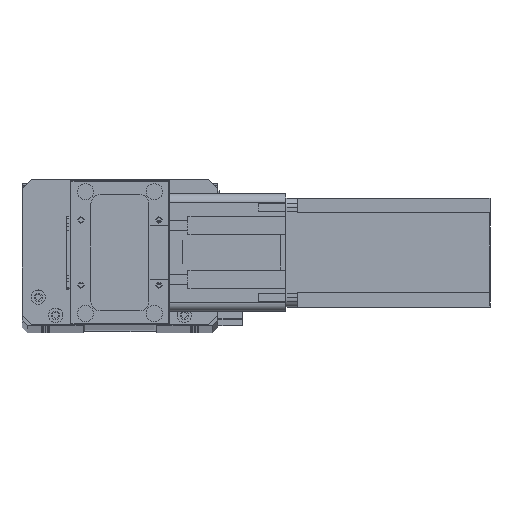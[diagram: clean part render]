
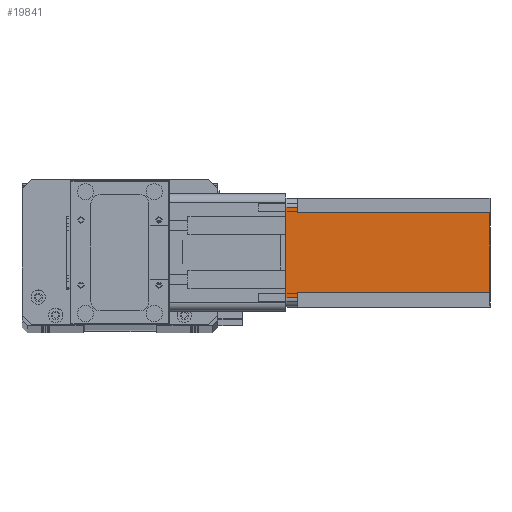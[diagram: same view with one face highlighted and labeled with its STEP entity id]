
A CAD part, top view. The second image highlights one B-rep face of the part: STEP entity #19841.
In plain terms, the highlighted planar face has unit normal (0, 0, 1) as drawn and (0, 1, 0) by its records, which use the part's own axes.
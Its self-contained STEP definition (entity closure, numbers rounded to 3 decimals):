
#150 = LINE ( 'NONE', #18123, #12511 ) ;
#553 = VECTOR ( 'NONE', #7529, 1000. ) ;
#932 = CARTESIAN_POINT ( 'NONE',  ( 55., 60., -6.5 ) ) ;
#1525 = ORIENTED_EDGE ( 'NONE', *, *, #17547, .T. ) ;
#1776 = EDGE_CURVE ( 'NONE', #19608, #12477, #8204, .T. ) ;
#1955 = VERTEX_POINT ( 'NONE', #28277 ) ;
#1980 = DIRECTION ( 'NONE',  ( 0., 0., 1. ) ) ;
#2579 = VECTOR ( 'NONE', #1980, 1000. ) ;
#2597 = EDGE_CURVE ( 'NONE', #18983, #12477, #150, .T. ) ;
#3213 = AXIS2_PLACEMENT_3D ( 'NONE', #22556, #8611, #24876 ) ;
#3865 = CARTESIAN_POINT ( 'NONE',  ( 55., 60., 0. ) ) ;
#3973 = ORIENTED_EDGE ( 'NONE', *, *, #22135, .T. ) ;
#4418 = ORIENTED_EDGE ( 'NONE', *, *, #6278, .T. ) ;
#4644 = VECTOR ( 'NONE', #25713, 1000. ) ;
#5533 = VERTEX_POINT ( 'NONE', #13171 ) ;
#6027 = LINE ( 'NONE', #19224, #553 ) ;
#6278 = EDGE_CURVE ( 'NONE', #19608, #20826, #21637, .T. ) ;
#7480 = VECTOR ( 'NONE', #12147, 1000. ) ;
#7529 = DIRECTION ( 'NONE',  ( 0., 0., -1. ) ) ;
#8026 = DIRECTION ( 'NONE',  ( 0., 0., -1. ) ) ;
#8204 = LINE ( 'NONE', #24447, #7480 ) ;
#8404 = EDGE_CURVE ( 'NONE', #9192, #20826, #11378, .T. ) ;
#8611 = DIRECTION ( 'NONE',  ( 0., 1., 0. ) ) ;
#8762 = LINE ( 'NONE', #27485, #2579 ) ;
#9192 = VERTEX_POINT ( 'NONE', #22963 ) ;
#9472 = CARTESIAN_POINT ( 'NONE',  ( 8., 60., -6.5 ) ) ;
#10713 = CARTESIAN_POINT ( 'NONE',  ( 5., 60., -6.5 ) ) ;
#10797 = LINE ( 'NONE', #9472, #4644 ) ;
#11378 = LINE ( 'NONE', #27652, #29185 ) ;
#11411 = DIRECTION ( 'NONE',  ( 1., 0., 0. ) ) ;
#11843 = EDGE_CURVE ( 'NONE', #1955, #5533, #6027, .T. ) ;
#12147 = DIRECTION ( 'NONE',  ( -1., 0., 0. ) ) ;
#12313 = DIRECTION ( 'NONE',  ( 0., 0., 1. ) ) ;
#12477 = VERTEX_POINT ( 'NONE', #28513 ) ;
#12511 = VECTOR ( 'NONE', #12313, 1000. ) ;
#13171 = CARTESIAN_POINT ( 'NONE',  ( 8., 60., -112.5 ) ) ;
#13407 = VECTOR ( 'NONE', #27047, 1000. ) ;
#14014 = PLANE ( 'NONE',  #3213 ) ;
#14748 = VECTOR ( 'NONE', #8026, 1000. ) ;
#15469 = ORIENTED_EDGE ( 'NONE', *, *, #11843, .F. ) ;
#15629 = ORIENTED_EDGE ( 'NONE', *, *, #1776, .F. ) ;
#15819 = VERTEX_POINT ( 'NONE', #25903 ) ;
#15878 = EDGE_LOOP ( 'NONE', ( #15629, #4418, #24104, #23666, #3973, #15469, #1525, #19758 ) ) ;
#17134 = FACE_OUTER_BOUND ( 'NONE', #15878, .T. ) ;
#17547 = EDGE_CURVE ( 'NONE', #1955, #18983, #10797, .T. ) ;
#18123 = CARTESIAN_POINT ( 'NONE',  ( 5., 60., -112.5 ) ) ;
#18983 = VERTEX_POINT ( 'NONE', #10713 ) ;
#19224 = CARTESIAN_POINT ( 'NONE',  ( 8., 60., -112.5 ) ) ;
#19608 = VERTEX_POINT ( 'NONE', #3865 ) ;
#19758 = ORIENTED_EDGE ( 'NONE', *, *, #2597, .T. ) ;
#19841 = ADVANCED_FACE ( 'NONE', ( #17134 ), #14014, .T. ) ;
#19943 = EDGE_CURVE ( 'NONE', #15819, #9192, #8762, .T. ) ;
#20150 = CARTESIAN_POINT ( 'NONE',  ( 0., 60., -112.5 ) ) ;
#20826 = VERTEX_POINT ( 'NONE', #932 ) ;
#21637 = LINE ( 'NONE', #21951, #14748 ) ;
#21951 = CARTESIAN_POINT ( 'NONE',  ( 55., 60., -112.5 ) ) ;
#22135 = EDGE_CURVE ( 'NONE', #15819, #5533, #25044, .T. ) ;
#22556 = CARTESIAN_POINT ( 'NONE',  ( 0., 60., -112.5 ) ) ;
#22963 = CARTESIAN_POINT ( 'NONE',  ( 52., 60., -6.5 ) ) ;
#23666 = ORIENTED_EDGE ( 'NONE', *, *, #19943, .F. ) ;
#24104 = ORIENTED_EDGE ( 'NONE', *, *, #8404, .F. ) ;
#24447 = CARTESIAN_POINT ( 'NONE',  ( 0., 60., 0. ) ) ;
#24876 = DIRECTION ( 'NONE',  ( 0., 0., 1. ) ) ;
#25044 = LINE ( 'NONE', #20150, #13407 ) ;
#25713 = DIRECTION ( 'NONE',  ( -1., 0., 0. ) ) ;
#25903 = CARTESIAN_POINT ( 'NONE',  ( 52., 60., -112.5 ) ) ;
#27047 = DIRECTION ( 'NONE',  ( -1., 0., 0. ) ) ;
#27485 = CARTESIAN_POINT ( 'NONE',  ( 52., 60., -112.5 ) ) ;
#27652 = CARTESIAN_POINT ( 'NONE',  ( 52., 60., -6.5 ) ) ;
#28277 = CARTESIAN_POINT ( 'NONE',  ( 8., 60., -6.5 ) ) ;
#28513 = CARTESIAN_POINT ( 'NONE',  ( 5., 60., 0. ) ) ;
#29185 = VECTOR ( 'NONE', #11411, 1000. ) ;
